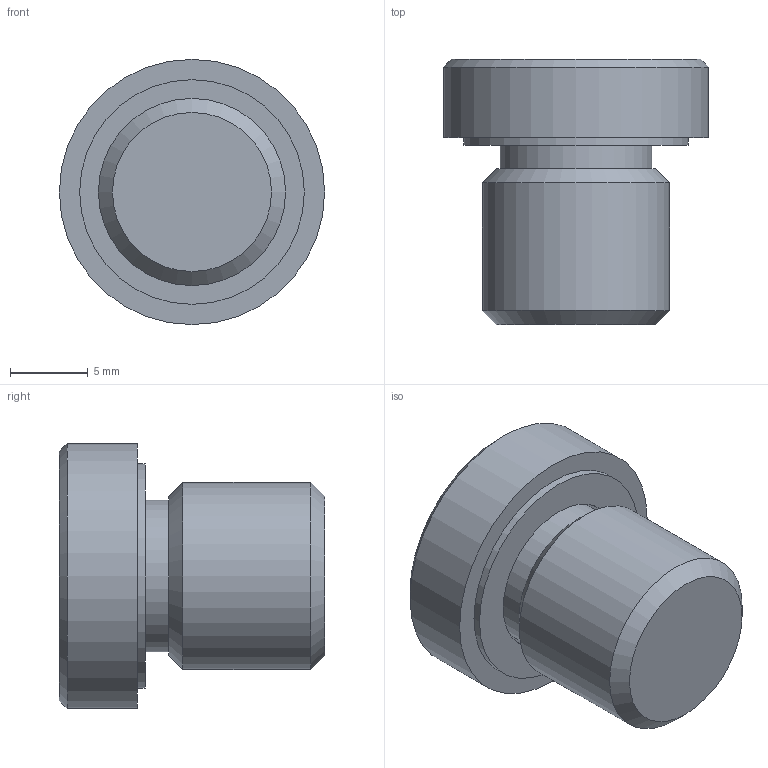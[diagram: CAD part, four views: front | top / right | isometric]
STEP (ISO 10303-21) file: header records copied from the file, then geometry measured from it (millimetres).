
FILE_DESCRIPTION( ( 'STEP AP203' ), '1' );
FILE_NAME( 'C:/Temp/Ganter_Step_05_03_2020/data/3_5/gn749/gn749_a/Threaded plug GN 749-M12x1,5-A.stp', '2020-03-12T13:41:33', ( 'License CC BY-ND 4.0' ), ( 'CADENAS' ), ' ', 'PARTsolutions', ' ' );
FILE_SCHEMA( ( 'CONFIG_CONTROL_DESIGN' ) );
Length unit declared in the file: millimetre
Products named in the file (1): _Threaded plug GN 749-M12x1,5-A
Bounding box: 17 x 17 x 17 mm (x, y, z)
Volume: 2269.8 mm3; surface area: 1317.8 mm2
Topology: 1 solids, 1 shells, 21 faces, 41 edges, 27 vertices
Faces by surface type: plane 13, cylinder 5, cone 3
Full cylindrical faces by diameter (mm): 9.7 x1, 10.1 x1, 12 x1, 14.4 x1, 17 x1
Entity records: 526 total; most frequent: DIRECTION 88, CARTESIAN_POINT 78, ORIENTED_EDGE 62, AXIS2_PLACEMENT_3D 35, EDGE_LOOP 34, EDGE_CURVE 31, FACE_OUTER_BOUND 26, VERTEX_POINT 25
